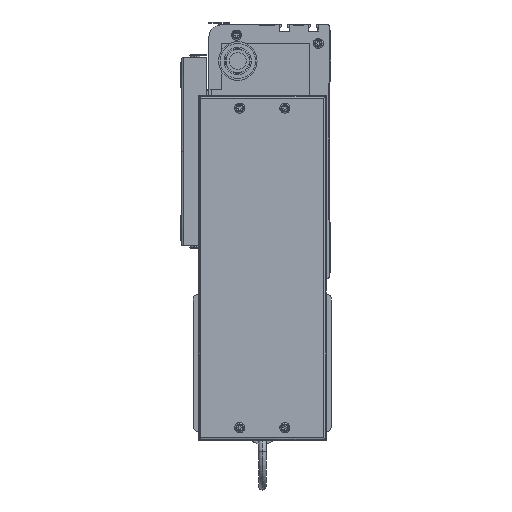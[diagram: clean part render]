
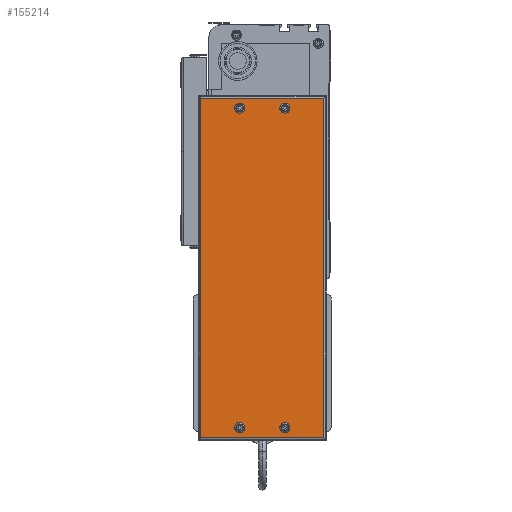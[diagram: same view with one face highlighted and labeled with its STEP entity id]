
A CAD part, left-side view. The second image highlights one B-rep face of the part: STEP entity #155214.
In plain terms, the highlighted planar face has unit normal (-1, 0, 0) as drawn and (1, 0, 0) by its records, which use the part's own axes.
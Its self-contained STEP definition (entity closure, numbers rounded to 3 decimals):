
#88790 = CARTESIAN_POINT ( 'NONE',  ( 50., 272., -2. ) ) ;
#88805 = CARTESIAN_POINT ( 'NONE',  ( 50., 10., -35.5 ) ) ;
#88866 = CARTESIAN_POINT ( 'NONE',  ( 50., 272., -100. ) ) ;
#88868 = DIRECTION ( 'NONE',  ( 0., 0., -1. ) ) ;
#88869 = VECTOR ( 'NONE', #88868, 1000. ) ;
#88871 = CARTESIAN_POINT ( 'NONE',  ( 50., 2., 0. ) ) ;
#88872 = LINE ( 'NONE', #88871, #88869 ) ;
#88954 = CARTESIAN_POINT ( 'NONE',  ( 50., 2., -100. ) ) ;
#89053 = DIRECTION ( 'NONE',  ( 0., -1., 0. ) ) ;
#89055 = VECTOR ( 'NONE', #89053, 1000. ) ;
#89082 = CARTESIAN_POINT ( 'NONE',  ( 50., 274., -2. ) ) ;
#89084 = LINE ( 'NONE', #89082, #89055 ) ;
#89198 = CARTESIAN_POINT ( 'NONE',  ( 50., 2., -2. ) ) ;
#89268 = CARTESIAN_POINT ( 'NONE',  ( 50., 10., -66.5 ) ) ;
#89310 = FACE_BOUND ( 'NONE', #155207, .T. ) ;
#89361 = AXIS2_PLACEMENT_3D ( 'NONE', #89390, #89451, #89450 ) ;
#89363 = FACE_BOUND ( 'NONE', #155788, .T. ) ;
#89364 = FACE_BOUND ( 'NONE', #155210, .T. ) ;
#89370 = FACE_BOUND ( 'NONE', #155300, .T. ) ;
#89373 = PLANE ( 'NONE',  #89361 ) ;
#89390 = CARTESIAN_POINT ( 'NONE',  ( 50., 274., 0. ) ) ;
#89400 = FACE_OUTER_BOUND ( 'NONE', #155080, .T. ) ;
#89447 = CIRCLE ( 'NONE', #89484, 2.5 ) ;
#89450 = DIRECTION ( 'NONE',  ( 0., 0., 1. ) ) ;
#89451 = DIRECTION ( 'NONE',  ( -1., 0., 0. ) ) ;
#89453 = CARTESIAN_POINT ( 'NONE',  ( 50., 264., -69. ) ) ;
#89474 = CIRCLE ( 'NONE', #89601, 2.5 ) ;
#89483 = DIRECTION ( 'NONE',  ( 0., 0., -1. ) ) ;
#89484 = AXIS2_PLACEMENT_3D ( 'NONE', #89453, #89497, #89483 ) ;
#89497 = DIRECTION ( 'NONE',  ( 1., 0., 0. ) ) ;
#89554 = DIRECTION ( 'NONE',  ( 0., 0., -1. ) ) ;
#89556 = DIRECTION ( 'NONE',  ( 1., 0., 0. ) ) ;
#89596 = DIRECTION ( 'NONE',  ( 0., 0., -1. ) ) ;
#89598 = DIRECTION ( 'NONE',  ( 1., 0., 0. ) ) ;
#89600 = CARTESIAN_POINT ( 'NONE',  ( 50., 264., -33. ) ) ;
#89601 = AXIS2_PLACEMENT_3D ( 'NONE', #89600, #89598, #89596 ) ;
#89621 = CARTESIAN_POINT ( 'NONE',  ( 50., 264., -69. ) ) ;
#89625 = DIRECTION ( 'NONE',  ( 0., 0., -1. ) ) ;
#89626 = DIRECTION ( 'NONE',  ( 1., 0., 0. ) ) ;
#89628 = AXIS2_PLACEMENT_3D ( 'NONE', #89621, #89556, #89554 ) ;
#89636 = DIRECTION ( 'NONE',  ( 0., 0., 1. ) ) ;
#89637 = AXIS2_PLACEMENT_3D ( 'NONE', #89643, #89626, #89625 ) ;
#89641 = CIRCLE ( 'NONE', #89637, 2.5 ) ;
#89643 = CARTESIAN_POINT ( 'NONE',  ( 50., 10., -69. ) ) ;
#89646 = CIRCLE ( 'NONE', #89628, 2.5 ) ;
#89648 = DIRECTION ( 'NONE',  ( 0., 1., 0. ) ) ;
#89650 = VECTOR ( 'NONE', #89648, 1000. ) ;
#89652 = VECTOR ( 'NONE', #89636, 1000. ) ;
#89657 = CARTESIAN_POINT ( 'NONE',  ( 50., 274., -100. ) ) ;
#89659 = LINE ( 'NONE', #89657, #89650 ) ;
#89660 = CARTESIAN_POINT ( 'NONE',  ( 50., 272., 0. ) ) ;
#89662 = LINE ( 'NONE', #89660, #89652 ) ;
#89716 = CARTESIAN_POINT ( 'NONE',  ( 50., 264., -71.5 ) ) ;
#90036 = CARTESIAN_POINT ( 'NONE',  ( 50., 10., -33. ) ) ;
#90082 = AXIS2_PLACEMENT_3D ( 'NONE', #90036, #90148, #90147 ) ;
#90147 = DIRECTION ( 'NONE',  ( 0., 0., -1. ) ) ;
#90148 = DIRECTION ( 'NONE',  ( 1., 0., 0. ) ) ;
#90163 = CIRCLE ( 'NONE', #90082, 2.5 ) ;
#90322 = CARTESIAN_POINT ( 'NONE',  ( 50., 10., -30.5 ) ) ;
#90415 = CARTESIAN_POINT ( 'NONE',  ( 50., 10., -71.5 ) ) ;
#90461 = DIRECTION ( 'NONE',  ( 0., 0., -1. ) ) ;
#90463 = DIRECTION ( 'NONE',  ( 1., 0., 0. ) ) ;
#90464 = CARTESIAN_POINT ( 'NONE',  ( 50., 10., -69. ) ) ;
#90466 = AXIS2_PLACEMENT_3D ( 'NONE', #90464, #90463, #90461 ) ;
#90468 = CIRCLE ( 'NONE', #90466, 2.5 ) ;
#91100 = CARTESIAN_POINT ( 'NONE',  ( 50., 264., -30.5 ) ) ;
#91241 = DIRECTION ( 'NONE',  ( 0., 0., -1. ) ) ;
#91243 = DIRECTION ( 'NONE',  ( 1., 0., 0. ) ) ;
#91244 = CARTESIAN_POINT ( 'NONE',  ( 50., 264., -33. ) ) ;
#91246 = AXIS2_PLACEMENT_3D ( 'NONE', #91244, #91243, #91241 ) ;
#91297 = CIRCLE ( 'NONE', #91246, 2.5 ) ;
#91562 = CARTESIAN_POINT ( 'NONE',  ( 50., 264., -66.5 ) ) ;
#91604 = CIRCLE ( 'NONE', #91652, 2.5 ) ;
#91641 = DIRECTION ( 'NONE',  ( 0., 0., -1. ) ) ;
#91642 = DIRECTION ( 'NONE',  ( 1., 0., 0. ) ) ;
#91652 = AXIS2_PLACEMENT_3D ( 'NONE', #91662, #91642, #91641 ) ;
#91662 = CARTESIAN_POINT ( 'NONE',  ( 50., 10., -33. ) ) ;
#91832 = CARTESIAN_POINT ( 'NONE',  ( 50., 264., -35.5 ) ) ;
#155038 = VERTEX_POINT ( 'NONE', #88805 ) ;
#155054 = EDGE_CURVE ( 'NONE', #155111, #155094, #88872, .T. ) ;
#155056 = VERTEX_POINT ( 'NONE', #88866 ) ;
#155064 = VERTEX_POINT ( 'NONE', #88790 ) ;
#155080 = EDGE_LOOP ( 'NONE', ( #155217, #155216, #155285, #155212 ) ) ;
#155094 = VERTEX_POINT ( 'NONE', #88954 ) ;
#155103 = EDGE_CURVE ( 'NONE', #155064, #155111, #89084, .T. ) ;
#155111 = VERTEX_POINT ( 'NONE', #89198 ) ;
#155169 = VERTEX_POINT ( 'NONE', #89268 ) ;
#155203 = ORIENTED_EDGE ( 'NONE', *, *, #155813, .F. ) ;
#155207 = EDGE_LOOP ( 'NONE', ( #155279, #155219 ) ) ;
#155210 = EDGE_LOOP ( 'NONE', ( #155282, #155306 ) ) ;
#155212 = ORIENTED_EDGE ( 'NONE', *, *, #155287, .T. ) ;
#155214 = ADVANCED_FACE ( 'NONE', ( #89400, #89364, #89310, #89370, #89363 ), #89373, .F. ) ;
#155216 = ORIENTED_EDGE ( 'NONE', *, *, #155054, .T. ) ;
#155217 = ORIENTED_EDGE ( 'NONE', *, *, #155103, .T. ) ;
#155219 = ORIENTED_EDGE ( 'NONE', *, *, #155477, .F. ) ;
#155220 = EDGE_CURVE ( 'NONE', #155321, #155982, #89447, .T. ) ;
#155222 = ORIENTED_EDGE ( 'NONE', *, *, #155315, .F. ) ;
#155230 = EDGE_CURVE ( 'NONE', #156087, #155785, #89474, .T. ) ;
#155277 = EDGE_CURVE ( 'NONE', #155094, #155056, #89659, .T. ) ;
#155279 = ORIENTED_EDGE ( 'NONE', *, *, #155995, .F. ) ;
#155282 = ORIENTED_EDGE ( 'NONE', *, *, #155289, .F. ) ;
#155285 = ORIENTED_EDGE ( 'NONE', *, *, #155277, .T. ) ;
#155287 = EDGE_CURVE ( 'NONE', #155056, #155064, #89662, .T. ) ;
#155289 = EDGE_CURVE ( 'NONE', #155502, #155169, #89641, .T. ) ;
#155300 = EDGE_LOOP ( 'NONE', ( #155371, #155222 ) ) ;
#155306 = ORIENTED_EDGE ( 'NONE', *, *, #155534, .F. ) ;
#155315 = EDGE_CURVE ( 'NONE', #155982, #155321, #89646, .T. ) ;
#155321 = VERTEX_POINT ( 'NONE', #89716 ) ;
#155371 = ORIENTED_EDGE ( 'NONE', *, *, #155220, .F. ) ;
#155477 = EDGE_CURVE ( 'NONE', #155505, #155038, #90163, .T. ) ;
#155502 = VERTEX_POINT ( 'NONE', #90415 ) ;
#155505 = VERTEX_POINT ( 'NONE', #90322 ) ;
#155534 = EDGE_CURVE ( 'NONE', #155169, #155502, #90468, .T. ) ;
#155785 = VERTEX_POINT ( 'NONE', #91100 ) ;
#155788 = EDGE_LOOP ( 'NONE', ( #156072, #155203 ) ) ;
#155813 = EDGE_CURVE ( 'NONE', #155785, #156087, #91297, .T. ) ;
#155982 = VERTEX_POINT ( 'NONE', #91562 ) ;
#155995 = EDGE_CURVE ( 'NONE', #155038, #155505, #91604, .T. ) ;
#156072 = ORIENTED_EDGE ( 'NONE', *, *, #155230, .F. ) ;
#156087 = VERTEX_POINT ( 'NONE', #91832 ) ;
